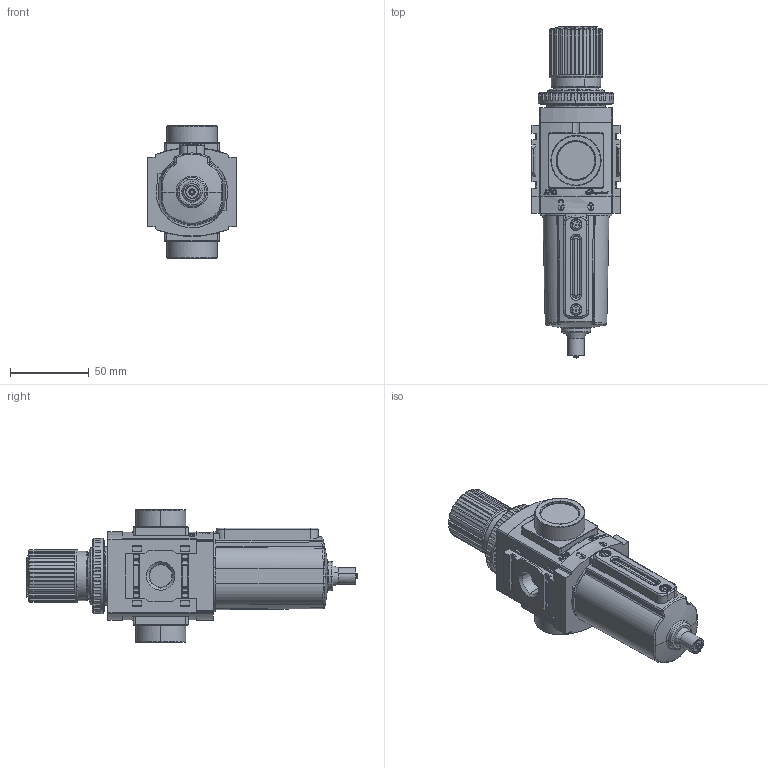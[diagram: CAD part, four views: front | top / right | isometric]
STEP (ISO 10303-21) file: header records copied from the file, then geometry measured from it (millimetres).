
FILE_DESCRIPTION(/* description */ (''),/* implementation_level */ '2;1');
FILE_NAME(/* name */ 'P392XX-X1X_01',/* time_stamp */ '2009-02-04T09:53:50-05:00',/* author */ (''),/* organization */ (''),/* preprocessor_version */ 'ST-DEVELOPER v9',/* originating_system */ 'UGS - NX 4.0',/* authorisation */ '');
FILE_SCHEMA (('AUTOMOTIVE_DESIGN { 1 0 10303 214 1 1 1 1 }'));
Length unit declared in the file: inch
Products named in the file (1): szee0781jj3r
Bounding box: 56 x 210.96 x 84.1 mm (x, y, z)
Volume: 368243.1 mm3; surface area: 47266.2 mm2
Topology: 2 solids, 2 shells, 1754 faces, 4391 edges, 2765 vertices
Faces by surface type: plane 772, cylinder 555, bspline 136, extrusion 106, torus 102, cone 61, sphere 13, revolution 9
Entity records: 78711 total; most frequent: CARTESIAN_POINT 30093, ORIENTED_EDGE 8778, DIRECTION 5385, EDGE_CURVE 4389, VERTEX_POINT 2765, B_SPLINE_CURVE_WITH_KNOTS 2522, EDGE_LOOP 1884, AXIS2_PLACEMENT_3D 1873
